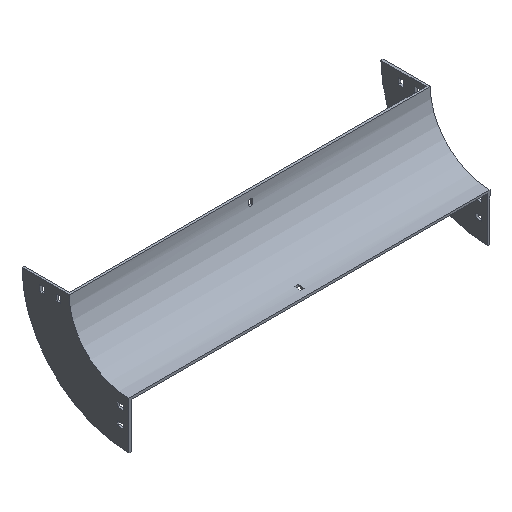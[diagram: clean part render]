
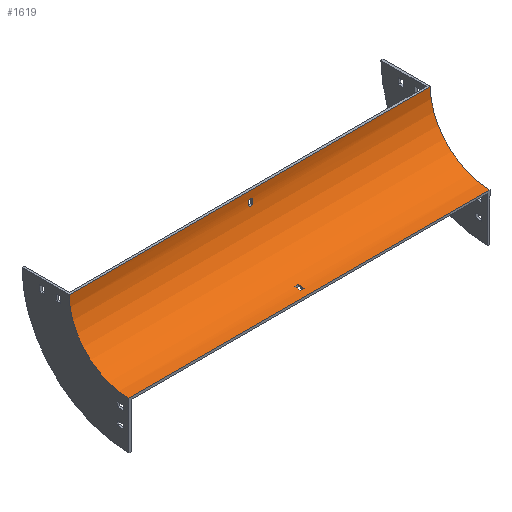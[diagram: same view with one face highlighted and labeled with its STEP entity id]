
A CAD part, isometric view. The second image highlights one B-rep face of the part: STEP entity #1619.
In plain terms, the highlighted cylindrical face has radius 100 mm (diameter 200 mm), a partial arc.
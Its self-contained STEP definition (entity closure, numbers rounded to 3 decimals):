
#8 = CARTESIAN_POINT ( 'NONE',  ( -3.25, -0.723, -12. ) ) ;
#13 = CARTESIAN_POINT ( 'NONE',  ( 302., -100., -100. ) ) ;
#67 = CARTESIAN_POINT ( 'NONE',  ( 302., -0.723, -12. ) ) ;
#69 = VECTOR ( 'NONE', #1412, 1000. ) ;
#100 = CARTESIAN_POINT ( 'NONE',  ( 302., 0., 0. ) ) ;
#108 = VECTOR ( 'NONE', #1378, 1000. ) ;
#126 = EDGE_CURVE ( 'NONE', #1003, #869, #813, .T. ) ;
#137 = DIRECTION ( 'NONE',  ( 0., 0., 1. ) ) ;
#154 = CARTESIAN_POINT ( 'NONE',  ( -302., 0., 0. ) ) ;
#158 = VERTEX_POINT ( 'NONE', #1651 ) ;
#195 = AXIS2_PLACEMENT_3D ( 'NONE', #1282, #503, #649 ) ;
#199 = EDGE_CURVE ( 'NONE', #250, #620, #1265, .T. ) ;
#216 = EDGE_CURVE ( 'NONE', #832, #1082, #747, .T. ) ;
#242 = EDGE_CURVE ( 'NONE', #1082, #869, #1451, .T. ) ;
#250 = VERTEX_POINT ( 'NONE', #8 ) ;
#258 = CARTESIAN_POINT ( 'NONE',  ( -302., -100., -100. ) ) ;
#279 = EDGE_CURVE ( 'NONE', #818, #1654, #1484, .T. ) ;
#292 = LINE ( 'NONE', #1208, #957 ) ;
#308 = VERTEX_POINT ( 'NONE', #1422 ) ;
#311 = EDGE_LOOP ( 'NONE', ( #554, #636, #1329, #954 ) ) ;
#316 = ORIENTED_EDGE ( 'NONE', *, *, #400, .T. ) ;
#331 = CARTESIAN_POINT ( 'NONE',  ( 302., -100., -100. ) ) ;
#343 = EDGE_CURVE ( 'NONE', #158, #308, #1507, .T. ) ;
#355 = DIRECTION ( 'NONE',  ( -1., 0., 0. ) ) ;
#357 = ORIENTED_EDGE ( 'NONE', *, *, #199, .T. ) ;
#399 = DIRECTION ( 'NONE',  ( 0., -1., 0. ) ) ;
#400 = EDGE_CURVE ( 'NONE', #1578, #250, #738, .T. ) ;
#438 = FACE_OUTER_BOUND ( 'NONE', #311, .T. ) ;
#462 = DIRECTION ( 'NONE',  ( 0., 0., 1. ) ) ;
#503 = DIRECTION ( 'NONE',  ( 1., 0., 0. ) ) ;
#504 = DIRECTION ( 'NONE',  ( -1., 0., 0. ) ) ;
#524 = AXIS2_PLACEMENT_3D ( 'NONE', #1039, #504, #778 ) ;
#541 = AXIS2_PLACEMENT_3D ( 'NONE', #1109, #355, #1636 ) ;
#545 = CARTESIAN_POINT ( 'NONE',  ( 302., -2.23, -21. ) ) ;
#554 = ORIENTED_EDGE ( 'NONE', *, *, #242, .T. ) ;
#564 = EDGE_CURVE ( 'NONE', #1158, #1578, #568, .T. ) ;
#568 = LINE ( 'NONE', #545, #1586 ) ;
#575 = VECTOR ( 'NONE', #704, 1000. ) ;
#602 = VECTOR ( 'NONE', #612, 1000. ) ;
#612 = DIRECTION ( 'NONE',  ( 1., 0., 0. ) ) ;
#620 = VERTEX_POINT ( 'NONE', #1598 ) ;
#630 = AXIS2_PLACEMENT_3D ( 'NONE', #1156, #1558, #399 ) ;
#636 = ORIENTED_EDGE ( 'NONE', *, *, #126, .F. ) ;
#639 = CARTESIAN_POINT ( 'NONE',  ( 302., -88., -99.277 ) ) ;
#649 = DIRECTION ( 'NONE',  ( 0., 0., 1. ) ) ;
#673 = FACE_BOUND ( 'NONE', #1424, .T. ) ;
#704 = DIRECTION ( 'NONE',  ( -1., 0., 0. ) ) ;
#716 = EDGE_CURVE ( 'NONE', #620, #1158, #1328, .T. ) ;
#731 = DIRECTION ( 'NONE',  ( 0., 0., 1. ) ) ;
#738 = CIRCLE ( 'NONE', #195, 100. ) ;
#744 = CARTESIAN_POINT ( 'NONE',  ( 3.25, -2.23, -21. ) ) ;
#747 = LINE ( 'NONE', #987, #108 ) ;
#758 = CIRCLE ( 'NONE', #1634, 100. ) ;
#778 = DIRECTION ( 'NONE',  ( 0., 1., 0. ) ) ;
#785 = CARTESIAN_POINT ( 'NONE',  ( -3.25, -2.23, -21. ) ) ;
#798 = FACE_BOUND ( 'NONE', #1399, .T. ) ;
#801 = EDGE_CURVE ( 'NONE', #1654, #158, #1237, .T. ) ;
#813 = LINE ( 'NONE', #331, #575 ) ;
#818 = VERTEX_POINT ( 'NONE', #1272 ) ;
#820 = AXIS2_PLACEMENT_3D ( 'NONE', #1055, #952, #137 ) ;
#832 = VERTEX_POINT ( 'NONE', #100 ) ;
#865 = CARTESIAN_POINT ( 'NONE',  ( 302., -100., 0. ) ) ;
#869 = VERTEX_POINT ( 'NONE', #258 ) ;
#915 = DIRECTION ( 'NONE',  ( -1., 0., 0. ) ) ;
#952 = DIRECTION ( 'NONE',  ( -1., 0., 0. ) ) ;
#954 = ORIENTED_EDGE ( 'NONE', *, *, #216, .T. ) ;
#957 = VECTOR ( 'NONE', #915, 1000. ) ;
#973 = ORIENTED_EDGE ( 'NONE', *, *, #279, .F. ) ;
#987 = CARTESIAN_POINT ( 'NONE',  ( 302., 0., 0. ) ) ;
#1003 = VERTEX_POINT ( 'NONE', #13 ) ;
#1039 = CARTESIAN_POINT ( 'NONE',  ( -3.25, -100., 0. ) ) ;
#1055 = CARTESIAN_POINT ( 'NONE',  ( 302., -100., 0. ) ) ;
#1069 = AXIS2_PLACEMENT_3D ( 'NONE', #1643, #1659, #462 ) ;
#1072 = ORIENTED_EDGE ( 'NONE', *, *, #564, .T. ) ;
#1082 = VERTEX_POINT ( 'NONE', #154 ) ;
#1084 = ORIENTED_EDGE ( 'NONE', *, *, #716, .T. ) ;
#1109 = CARTESIAN_POINT ( 'NONE',  ( 3.25, -100., 0. ) ) ;
#1123 = DIRECTION ( 'NONE',  ( -1., 0., 0. ) ) ;
#1156 = CARTESIAN_POINT ( 'NONE',  ( 3.25, -100., 0. ) ) ;
#1158 = VERTEX_POINT ( 'NONE', #744 ) ;
#1184 = CYLINDRICAL_SURFACE ( 'NONE', #820, 100. ) ;
#1202 = DIRECTION ( 'NONE',  ( -1., 0., 0. ) ) ;
#1208 = CARTESIAN_POINT ( 'NONE',  ( 302., -79., -97.77 ) ) ;
#1237 = LINE ( 'NONE', #639, #69 ) ;
#1265 = LINE ( 'NONE', #67, #602 ) ;
#1272 = CARTESIAN_POINT ( 'NONE',  ( -3.25, -79., -97.77 ) ) ;
#1282 = CARTESIAN_POINT ( 'NONE',  ( -3.25, -100., 0. ) ) ;
#1285 = ORIENTED_EDGE ( 'NONE', *, *, #1644, .F. ) ;
#1322 = EDGE_CURVE ( 'NONE', #832, #1003, #758, .T. ) ;
#1328 = CIRCLE ( 'NONE', #541, 100. ) ;
#1329 = ORIENTED_EDGE ( 'NONE', *, *, #1322, .F. ) ;
#1378 = DIRECTION ( 'NONE',  ( -1., 0., 0. ) ) ;
#1390 = CARTESIAN_POINT ( 'NONE',  ( -3.25, -88., -99.277 ) ) ;
#1399 = EDGE_LOOP ( 'NONE', ( #1072, #316, #357, #1084 ) ) ;
#1412 = DIRECTION ( 'NONE',  ( 1., 0., 0. ) ) ;
#1418 = ORIENTED_EDGE ( 'NONE', *, *, #343, .F. ) ;
#1422 = CARTESIAN_POINT ( 'NONE',  ( 3.25, -79., -97.77 ) ) ;
#1423 = ORIENTED_EDGE ( 'NONE', *, *, #801, .F. ) ;
#1424 = EDGE_LOOP ( 'NONE', ( #973, #1285, #1418, #1423 ) ) ;
#1451 = CIRCLE ( 'NONE', #1069, 100. ) ;
#1484 = CIRCLE ( 'NONE', #524, 100. ) ;
#1507 = CIRCLE ( 'NONE', #630, 100. ) ;
#1558 = DIRECTION ( 'NONE',  ( 1., 0., 0. ) ) ;
#1578 = VERTEX_POINT ( 'NONE', #785 ) ;
#1586 = VECTOR ( 'NONE', #1202, 1000. ) ;
#1598 = CARTESIAN_POINT ( 'NONE',  ( 3.25, -0.723, -12. ) ) ;
#1619 = ADVANCED_FACE ( 'NONE', ( #438, #798, #673 ), #1184, .F. ) ;
#1634 = AXIS2_PLACEMENT_3D ( 'NONE', #865, #1123, #731 ) ;
#1636 = DIRECTION ( 'NONE',  ( 0., 0., -1. ) ) ;
#1643 = CARTESIAN_POINT ( 'NONE',  ( -302., -100., 0. ) ) ;
#1644 = EDGE_CURVE ( 'NONE', #308, #818, #292, .T. ) ;
#1651 = CARTESIAN_POINT ( 'NONE',  ( 3.25, -88., -99.277 ) ) ;
#1654 = VERTEX_POINT ( 'NONE', #1390 ) ;
#1659 = DIRECTION ( 'NONE',  ( -1., 0., 0. ) ) ;
